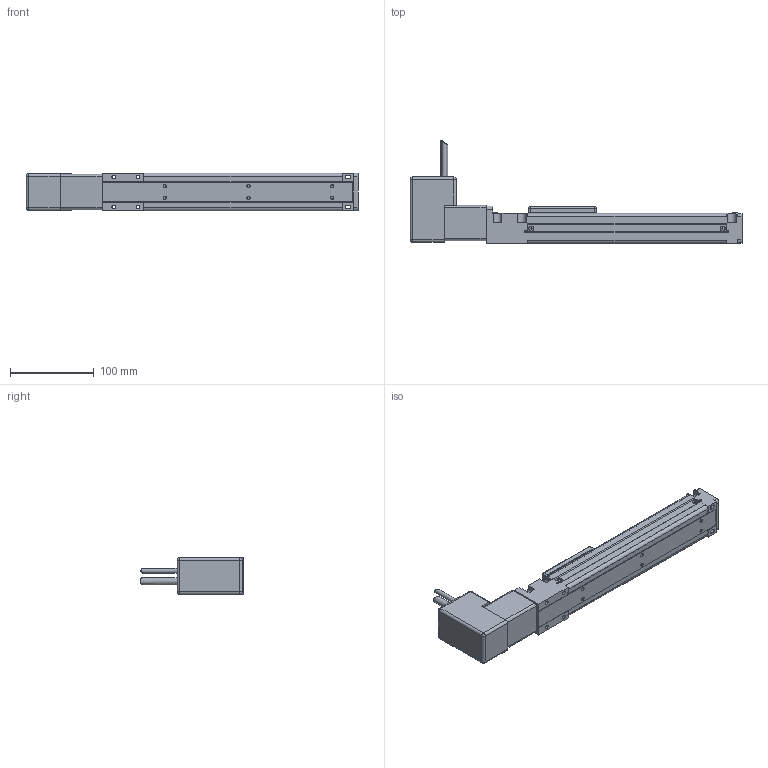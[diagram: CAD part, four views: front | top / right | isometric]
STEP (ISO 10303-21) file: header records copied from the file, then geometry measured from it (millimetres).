
FILE_DESCRIPTION(/* description */ ('Alibre Inc.'),/* implementation_level */ '2;1');
FILE_NAME(/* name */ 'export0',/* time_stamp */ '2010-03-31T14:54:45-04:00',/* author */ (''),/* organization */ (''),/* preprocessor_version */ 'ST-DEVELOPER v10',/* originating_system */ 'Alibre',/* authorisation */ '');
FILE_SCHEMA (('CONFIG_CONTROL_DESIGN'));
Length unit declared in the file: millimetre
Products named in the file (4): 1; 2; ID_1
Bounding box: 397 x 124.18 x 45 mm (x, y, z)
Volume: 444248.2 mm3; surface area: 155322.6 mm2
Topology: 3 solids, 3 shells, 685 faces, 1787 edges, 1108 vertices
Faces by surface type: plane 430, cylinder 151, cone 90, torus 8, sphere 6
Full cylindrical faces by diameter (mm): 2.459 x3, 2.5 x1, 5 x1, 5.6 x1, 8.5 x1, 22 x1
Entity records: 20518 total; most frequent: CARTESIAN_POINT 3694, ORIENTED_EDGE 3484, DIRECTION 3057, EDGE_CURVE 1742, VECTOR 1317, LINE 1317, VERTEX_POINT 1105, AXIS2_PLACEMENT_3D 1088
